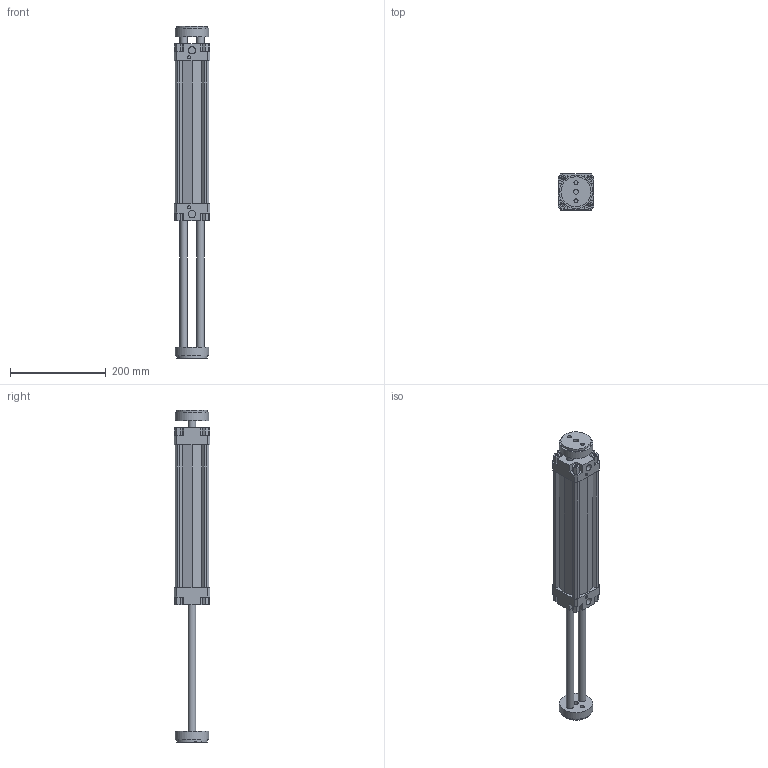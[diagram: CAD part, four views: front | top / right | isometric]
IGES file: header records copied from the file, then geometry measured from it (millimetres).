
Global section: file name: 132#_063_0250_06; native system: Autodesk Inventor 2014; preprocessor: unknown; author: A. Manieri; date: 20161006.160016; units: millimetre
Bounding box: 75 x 75 x 695 mm (x, y, z)
Volume: 1259549.8 mm3; surface area: 307265.9 mm2
Topology: 2 solids, 2 shells, 190 faces, 518 edges, 354 vertices
Faces by surface type: bspline 190
